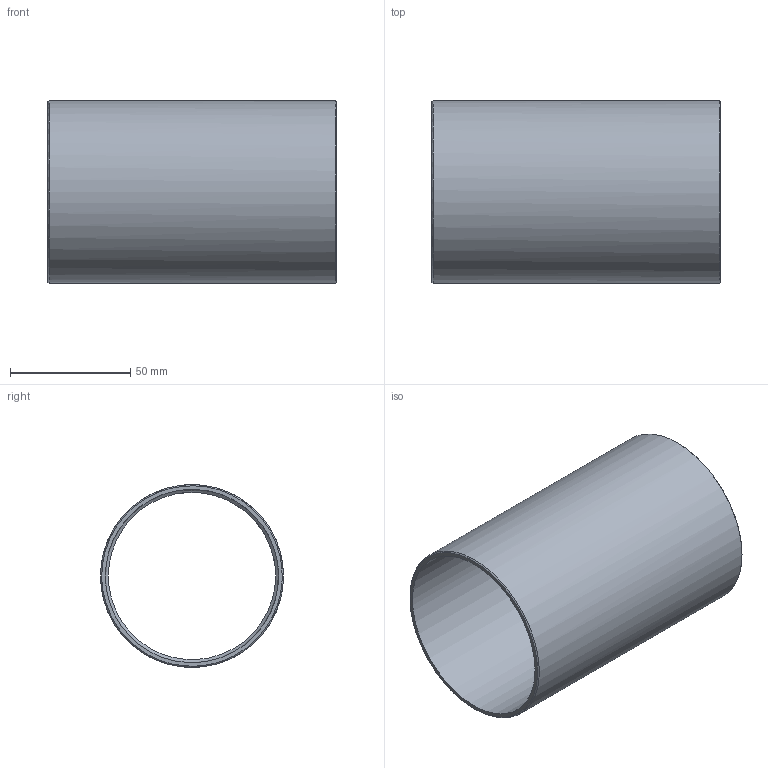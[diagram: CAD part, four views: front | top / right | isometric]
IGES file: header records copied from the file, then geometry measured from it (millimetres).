
Global section: file name: C13AK; native system: Autodesk Inventor 2023; preprocessor: unknown; author: lvalentini; date: 20230921.085005; units: millimetre
Bounding box: 120 x 76.1 x 76.09 mm (x, y, z)
Volume: 69433.6 mm3; surface area: 56731.6 mm2
Topology: 1 solids, 1 shells, 8 faces, 22 edges, 16 vertices
Faces by surface type: bspline 8
